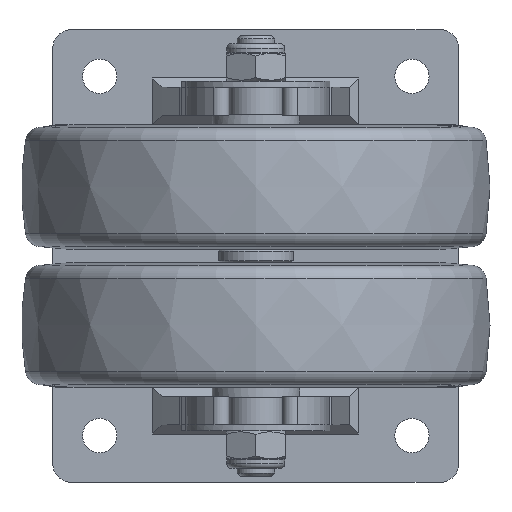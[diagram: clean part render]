
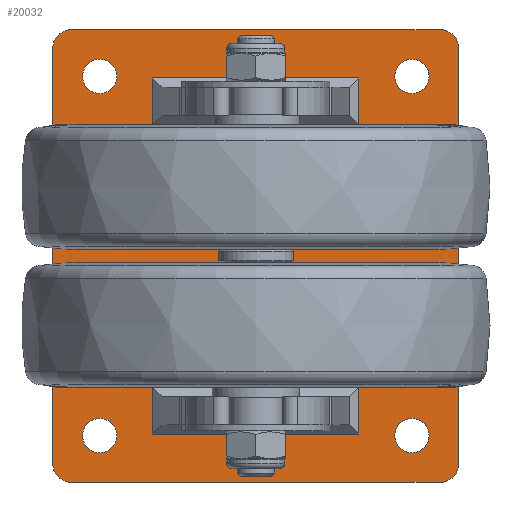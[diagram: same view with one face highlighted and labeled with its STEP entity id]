
A CAD part, front view. The second image highlights one B-rep face of the part: STEP entity #20032.
In plain terms, the highlighted planar face has unit normal (0, -1, 0).
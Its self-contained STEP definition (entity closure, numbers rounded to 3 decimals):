
#1752=FACE_BOUND('',#5006,.T.);
#1753=FACE_BOUND('',#5007,.T.);
#1754=FACE_BOUND('',#5008,.T.);
#1755=FACE_BOUND('',#5009,.T.);
#1756=FACE_BOUND('',#5010,.T.);
#1757=FACE_BOUND('',#5011,.T.);
#2104=PLANE('',#21159);
#3894=FACE_OUTER_BOUND('',#5005,.T.);
#5005=EDGE_LOOP('',(#15827,#15828,#15829,#15830,#15831,#15832,#15833,#15834));
#5006=EDGE_LOOP('',(#15835,#15836,#15837,#15838));
#5007=EDGE_LOOP('',(#15839,#15840,#15841,#15842));
#5008=EDGE_LOOP('',(#15843));
#5009=EDGE_LOOP('',(#15844));
#5010=EDGE_LOOP('',(#15845));
#5011=EDGE_LOOP('',(#15846));
#6550=LINE('',#28387,#7939);
#6551=LINE('',#28391,#7940);
#6552=LINE('',#28395,#7941);
#6553=LINE('',#28398,#7942);
#6554=LINE('',#28401,#7943);
#6555=LINE('',#28403,#7944);
#6556=LINE('',#28405,#7945);
#6557=LINE('',#28406,#7946);
#6558=LINE('',#28409,#7947);
#6559=LINE('',#28411,#7948);
#6560=LINE('',#28413,#7949);
#6561=LINE('',#28414,#7950);
#7939=VECTOR('',#23392,10.);
#7940=VECTOR('',#23395,10.);
#7941=VECTOR('',#23398,10.);
#7942=VECTOR('',#23401,10.);
#7943=VECTOR('',#23402,10.);
#7944=VECTOR('',#23403,10.);
#7945=VECTOR('',#23404,10.);
#7946=VECTOR('',#23405,10.);
#7947=VECTOR('',#23406,10.);
#7948=VECTOR('',#23407,10.);
#7949=VECTOR('',#23408,10.);
#7950=VECTOR('',#23409,10.);
#8652=CIRCLE('',#21160,6.);
#8653=CIRCLE('',#21161,6.);
#8654=CIRCLE('',#21162,6.);
#8655=CIRCLE('',#21163,6.);
#8656=CIRCLE('',#21164,5.5);
#8657=CIRCLE('',#21165,5.5);
#8658=CIRCLE('',#21166,5.5);
#8659=CIRCLE('',#21167,5.5);
#9530=VERTEX_POINT('',#28383);
#9531=VERTEX_POINT('',#28384);
#9532=VERTEX_POINT('',#28386);
#9533=VERTEX_POINT('',#28388);
#9534=VERTEX_POINT('',#28390);
#9535=VERTEX_POINT('',#28392);
#9536=VERTEX_POINT('',#28394);
#9537=VERTEX_POINT('',#28396);
#9538=VERTEX_POINT('',#28399);
#9539=VERTEX_POINT('',#28400);
#9540=VERTEX_POINT('',#28402);
#9541=VERTEX_POINT('',#28404);
#9542=VERTEX_POINT('',#28407);
#9543=VERTEX_POINT('',#28408);
#9544=VERTEX_POINT('',#28410);
#9545=VERTEX_POINT('',#28412);
#9546=VERTEX_POINT('',#28415);
#9547=VERTEX_POINT('',#28417);
#9548=VERTEX_POINT('',#28419);
#9549=VERTEX_POINT('',#28421);
#11850=EDGE_CURVE('',#9530,#9531,#8652,.T.);
#11851=EDGE_CURVE('',#9532,#9530,#6550,.T.);
#11852=EDGE_CURVE('',#9533,#9532,#8653,.T.);
#11853=EDGE_CURVE('',#9534,#9533,#6551,.T.);
#11854=EDGE_CURVE('',#9535,#9534,#8654,.T.);
#11855=EDGE_CURVE('',#9536,#9535,#6552,.T.);
#11856=EDGE_CURVE('',#9537,#9536,#8655,.T.);
#11857=EDGE_CURVE('',#9531,#9537,#6553,.T.);
#11858=EDGE_CURVE('',#9538,#9539,#6554,.T.);
#11859=EDGE_CURVE('',#9540,#9538,#6555,.T.);
#11860=EDGE_CURVE('',#9541,#9540,#6556,.T.);
#11861=EDGE_CURVE('',#9539,#9541,#6557,.T.);
#11862=EDGE_CURVE('',#9542,#9543,#6558,.T.);
#11863=EDGE_CURVE('',#9544,#9542,#6559,.T.);
#11864=EDGE_CURVE('',#9545,#9544,#6560,.T.);
#11865=EDGE_CURVE('',#9543,#9545,#6561,.T.);
#11866=EDGE_CURVE('',#9546,#9546,#8656,.T.);
#11867=EDGE_CURVE('',#9547,#9547,#8657,.T.);
#11868=EDGE_CURVE('',#9548,#9548,#8658,.T.);
#11869=EDGE_CURVE('',#9549,#9549,#8659,.T.);
#15827=ORIENTED_EDGE('',*,*,#11850,.F.);
#15828=ORIENTED_EDGE('',*,*,#11851,.F.);
#15829=ORIENTED_EDGE('',*,*,#11852,.F.);
#15830=ORIENTED_EDGE('',*,*,#11853,.F.);
#15831=ORIENTED_EDGE('',*,*,#11854,.F.);
#15832=ORIENTED_EDGE('',*,*,#11855,.F.);
#15833=ORIENTED_EDGE('',*,*,#11856,.F.);
#15834=ORIENTED_EDGE('',*,*,#11857,.F.);
#15835=ORIENTED_EDGE('',*,*,#11858,.F.);
#15836=ORIENTED_EDGE('',*,*,#11859,.F.);
#15837=ORIENTED_EDGE('',*,*,#11860,.F.);
#15838=ORIENTED_EDGE('',*,*,#11861,.F.);
#15839=ORIENTED_EDGE('',*,*,#11862,.F.);
#15840=ORIENTED_EDGE('',*,*,#11863,.F.);
#15841=ORIENTED_EDGE('',*,*,#11864,.F.);
#15842=ORIENTED_EDGE('',*,*,#11865,.F.);
#15843=ORIENTED_EDGE('',*,*,#11866,.F.);
#15844=ORIENTED_EDGE('',*,*,#11867,.F.);
#15845=ORIENTED_EDGE('',*,*,#11868,.F.);
#15846=ORIENTED_EDGE('',*,*,#11869,.F.);
#20032=ADVANCED_FACE('',(#3894,#1752,#1753,#1754,#1755,#1756,#1757),#2104,
 .F.);
#21159=AXIS2_PLACEMENT_3D('',#28382,#23388,#23389);
#21160=AXIS2_PLACEMENT_3D('',#28385,#23390,#23391);
#21161=AXIS2_PLACEMENT_3D('',#28389,#23393,#23394);
#21162=AXIS2_PLACEMENT_3D('',#28393,#23396,#23397);
#21163=AXIS2_PLACEMENT_3D('',#28397,#23399,#23400);
#21164=AXIS2_PLACEMENT_3D('',#28416,#23410,#23411);
#21165=AXIS2_PLACEMENT_3D('',#28418,#23412,#23413);
#21166=AXIS2_PLACEMENT_3D('',#28420,#23414,#23415);
#21167=AXIS2_PLACEMENT_3D('',#28422,#23416,#23417);
#23388=DIRECTION('center_axis',(0.,1.,0.));
#23389=DIRECTION('ref_axis',(0.,0.,1.));
#23390=DIRECTION('center_axis',(0.,1.,0.));
#23391=DIRECTION('ref_axis',(0.,0.,-1.));
#23392=DIRECTION('',(-1.,0.,0.));
#23393=DIRECTION('center_axis',(0.,1.,0.));
#23394=DIRECTION('ref_axis',(1.,0.,0.));
#23395=DIRECTION('',(0.,0.,-1.));
#23396=DIRECTION('center_axis',(0.,1.,0.));
#23397=DIRECTION('ref_axis',(0.,0.,1.));
#23398=DIRECTION('',(1.,0.,0.));
#23399=DIRECTION('center_axis',(0.,1.,0.));
#23400=DIRECTION('ref_axis',(-1.,0.,0.));
#23401=DIRECTION('',(0.,0.,1.));
#23402=DIRECTION('',(1.,0.,0.));
#23403=DIRECTION('',(0.,0.,-1.));
#23404=DIRECTION('',(-1.,0.,0.));
#23405=DIRECTION('',(0.,0.,1.));
#23406=DIRECTION('',(-1.,0.,0.));
#23407=DIRECTION('',(0.,0.,1.));
#23408=DIRECTION('',(1.,0.,0.));
#23409=DIRECTION('',(0.,0.,-1.));
#23410=DIRECTION('center_axis',(0.,-1.,0.));
#23411=DIRECTION('ref_axis',(1.,0.,0.));
#23412=DIRECTION('center_axis',(0.,-1.,0.));
#23413=DIRECTION('ref_axis',(1.,0.,0.));
#23414=DIRECTION('center_axis',(0.,-1.,0.));
#23415=DIRECTION('ref_axis',(1.,0.,0.));
#23416=DIRECTION('center_axis',(0.,-1.,0.));
#23417=DIRECTION('ref_axis',(1.,0.,0.));
#28382=CARTESIAN_POINT('Origin',(0.,0.,0.));
#28383=CARTESIAN_POINT('',(-59.,0.,-72.5));
#28384=CARTESIAN_POINT('',(-65.,0.,-66.5));
#28385=CARTESIAN_POINT('Origin',(-59.,0.,-66.5));
#28386=CARTESIAN_POINT('',(59.,0.,-72.5));
#28387=CARTESIAN_POINT('',(59.,0.,-72.5));
#28388=CARTESIAN_POINT('',(65.,0.,-66.5));
#28389=CARTESIAN_POINT('Origin',(59.,0.,-66.5));
#28390=CARTESIAN_POINT('',(65.,0.,66.5));
#28391=CARTESIAN_POINT('',(65.,0.,66.5));
#28392=CARTESIAN_POINT('',(59.,0.,72.5));
#28393=CARTESIAN_POINT('Origin',(59.,0.,66.5));
#28394=CARTESIAN_POINT('',(-59.,0.,72.5));
#28395=CARTESIAN_POINT('',(-59.,0.,72.5));
#28396=CARTESIAN_POINT('',(-65.,0.,66.5));
#28397=CARTESIAN_POINT('Origin',(-59.,0.,66.5));
#28398=CARTESIAN_POINT('',(-65.,0.,-66.5));
#28399=CARTESIAN_POINT('',(-33.,0.,42.));
#28400=CARTESIAN_POINT('',(33.,0.,42.));
#28401=CARTESIAN_POINT('',(0.,0.,42.));
#28402=CARTESIAN_POINT('',(-33.,0.,57.));
#28403=CARTESIAN_POINT('',(-33.,0.,27.));
#28404=CARTESIAN_POINT('',(33.,0.,57.));
#28405=CARTESIAN_POINT('',(0.,0.,57.));
#28406=CARTESIAN_POINT('',(33.,0.,27.));
#28407=CARTESIAN_POINT('',(33.,0.,-42.));
#28408=CARTESIAN_POINT('',(-33.,0.,-42.));
#28409=CARTESIAN_POINT('',(0.,0.,-42.));
#28410=CARTESIAN_POINT('',(33.,0.,-57.));
#28411=CARTESIAN_POINT('',(33.,0.,-27.));
#28412=CARTESIAN_POINT('',(-33.,0.,-57.));
#28413=CARTESIAN_POINT('',(0.,0.,-57.));
#28414=CARTESIAN_POINT('',(-33.,0.,-27.));
#28415=CARTESIAN_POINT('',(44.5,0.,-57.5));
#28416=CARTESIAN_POINT('Origin',(50.,0.,-57.5));
#28417=CARTESIAN_POINT('',(44.5,0.,57.5));
#28418=CARTESIAN_POINT('Origin',(50.,0.,57.5));
#28419=CARTESIAN_POINT('',(-55.5,0.,-57.5));
#28420=CARTESIAN_POINT('Origin',(-50.,0.,-57.5));
#28421=CARTESIAN_POINT('',(-55.5,0.,57.5));
#28422=CARTESIAN_POINT('Origin',(-50.,0.,57.5));
